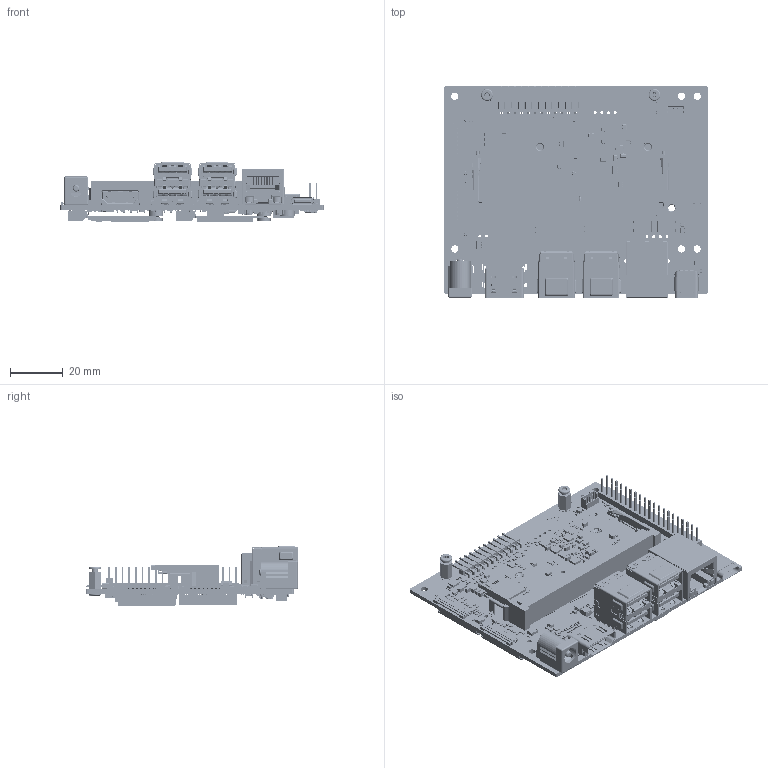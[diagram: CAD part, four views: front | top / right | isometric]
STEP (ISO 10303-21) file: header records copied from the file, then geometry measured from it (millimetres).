
FILE_DESCRIPTION((''),'2;1');
FILE_NAME('000_ARVALA_TLA_ASM_1_ASM','2026-01-12T11:20:56',('Lenovo'),(''),'CREO PARAMETRIC BY PTC INC, 2022073','CREO PARAMETRIC BY PTC INC, 2022073','');
FILE_SCHEMA(('AUTOMOTIVE_DESIGN { 1 0 10303 214 1 1 1 1 }'));
Products named in the file (453): 155-0901-000_1; 600-13768-0000-A04_1; 174-0159-000_2_1; 064-0267-000_1_1; 074-0221-000_3_1; 080-1656-000_3_1_1; 080-1656-000_3_1_2; 080-1656-000_3_1_3; 080-1656-000_3_1_4; 080-1656-000_3_1_5; 080-1656-000_3_1_6; 080-1656-000_3_1_7; 080-1656-000_3_1_8; 080-1656-000_3_1_9; 080-1656-000_3_1_10; 080-1656-000_3_1_11; 080-1656-000_3_1_12; 080-1656-000_3_1_13; 080-1656-000_3_1_14; 080-1656-000_3_1_15; 080-1656-000_3_1_16; 080-1656-000_3_1_17; 080-1656-000_3_1_18; 080-1656-000_3_1_19; 080-1656-000_3_1_20; 080-1656-000_3_1_21; 080-1656-000_3_1_22; 080-1656-000_3_1_23; 080-1656-000_3_1_24; 080-1656-000_3_1_25; 080-1656-000_3_1_26; 080-1656-000_3_1_27; 080-1656-000_3_1_28; 080-1656-000_3_1_29; 080-1656-000_3_1_30; 080-1656-000_3_1_31; 080-1656-000_3_1_32; 080-1656-000_3_1_33; 080-1656-000_3_1_34; 080-1656-000_3_1_35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
Assembly tree (1124 placements, depth 7):
  000_ARVALA_TLA_ASM_1_ASM
    155-0901-000_1  x2
    Y-C18_ASM
      600-13768-0000-A04_1
      174-0159-000_2_1
      064-0267-000_1_1
      074-0221-000_3_1
      080-1656-000_3_1_ASM
        080-1656-000_3_1_1
        080-1656-000_3_1_2
        080-1656-000_3_1_3
        080-1656-000_3_1_4
        080-1656-000_3_1_5
        080-1656-000_3_1_6
        080-1656-000_3_1_7
        080-1656-000_3_1_8
        080-1656-000_3_1_9
        080-1656-000_3_1_10
        080-1656-000_3_1_11
        080-1656-000_3_1_12
        080-1656-000_3_1_13
        080-1656-000_3_1_14
        080-1656-000_3_1_15
        080-1656-000_3_1_16
        080-1656-000_3_1_17
        080-1656-000_3_1_18
        080-1656-000_3_1_19
        080-1656-000_3_1_20
        080-1656-000_3_1_21
        080-1656-000_3_1_22
        080-1656-000_3_1_23
        080-1656-000_3_1_24
        080-1656-000_3_1_25
        080-1656-000_3_1_26
        080-1656-000_3_1_27
        080-1656-000_3_1_28
        080-1656-000_3_1_29
        080-1656-000_3_1_30
        080-1656-000_3_1_31
        080-1656-000_3_1_32
        080-1656-000_3_1_33
        080-1656-000_3_1_34
        080-1656-000_3_1_35
        080-1656-000_3_1_36
        080-1656-000_3_1_37
        080-1656-000_3_1_38
        080-1656-000_3_1_39
        080-1656-000_3_1_40
        080-1656-000_3_1_41
        080-1656-000_3_1_42
        080-1656-000_3_1_43
        080-1656-000_3_1_44
        080-1656-000_3_1_45
        080-1656-000_3_1_46
        080-1656-000_3_1_47
        080-1656-000_3_1_48
        080-1656-000_3_1_49
        080-1656-000_3_1_50
        080-1656-000_3_1_51
        080-1656-000_3_1_52
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Bounding box: 100 x 80.75 x 22.94 mm (x, y, z)
Volume: 31447 mm3; surface area: 67759.6 mm2
Topology: 1119 solids, 1135 shells, 50377 faces, 138798 edges, 91582 vertices
Faces by surface type: plane 40895, cylinder 8491, bspline 535, extrusion 136, cone 134, torus 111, sphere 75
Entity records: 1138705 total; most frequent: CARTESIAN_POINT 188391, ORIENTED_EDGE 147950, DIRECTION 142455, EDGE_CURVE 73995, VECTOR 60101, LINE 59997, PRESENTATION_STYLE_ASSIGNMENT 56888, STYLED_ITEM 51701
